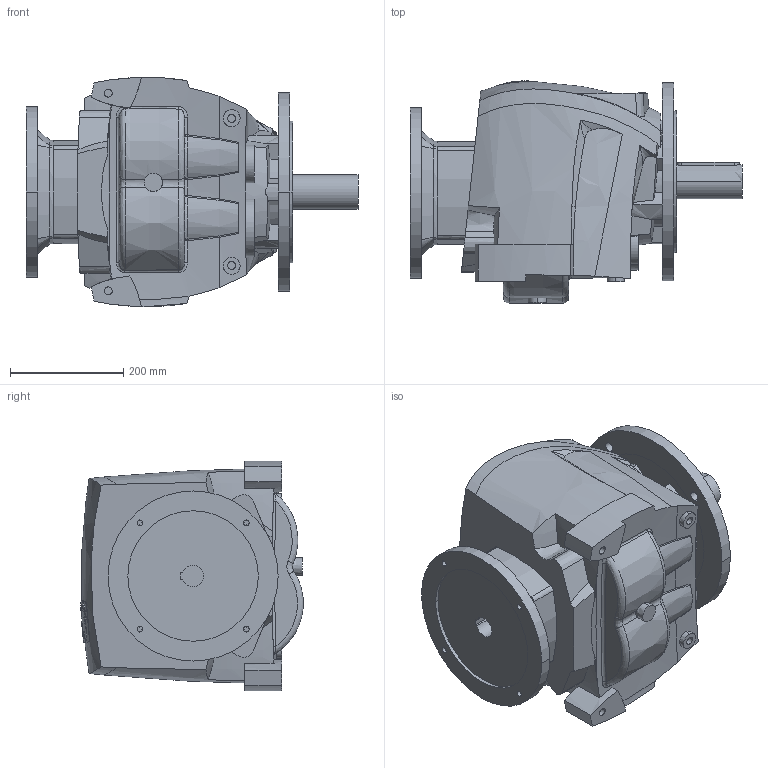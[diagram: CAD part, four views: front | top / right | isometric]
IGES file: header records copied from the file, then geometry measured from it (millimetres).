
Start section:  PTC IGES file: r60_350_pam132.igs
Global section: file name: r60_350_pam132.igs; native system: Pro/ENGINEER by Parametric Technology Corporation; preprocessor: 2008230; author: Luca; organization: Unknown; date: 20131223.170830; units: millimetre
Bounding box: 585.5 x 392.1 x 404.24 mm (x, y, z)
Volume: 41673466.4 mm3; surface area: 1058124.9 mm2
Topology: 1 solids, 8 shells, 471 faces, 1238 edges, 816 vertices
Faces by surface type: bspline 271, revolution 199, extrusion 1
